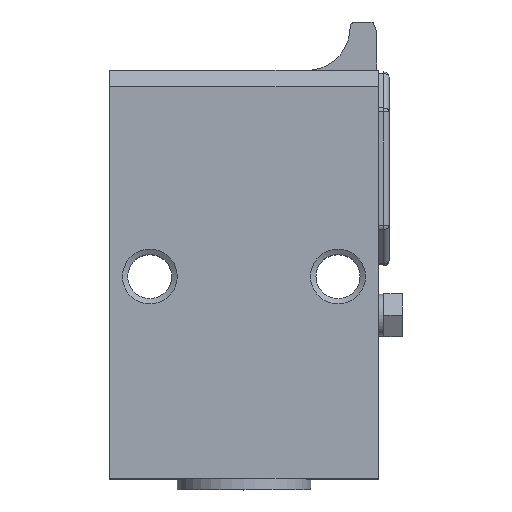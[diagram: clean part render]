
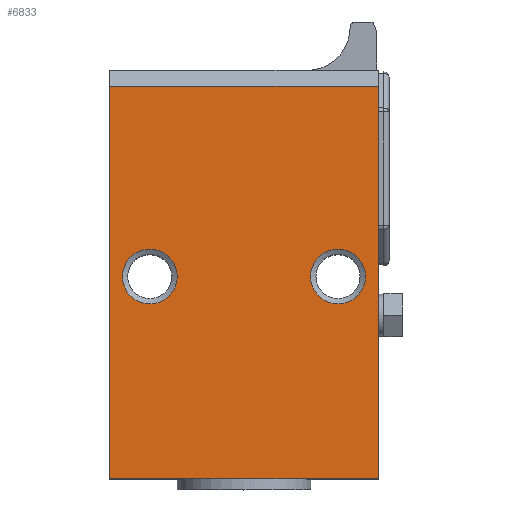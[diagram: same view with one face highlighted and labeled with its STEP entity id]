
A CAD part, top view. The second image highlights one B-rep face of the part: STEP entity #6833.
In plain terms, the highlighted planar face has unit normal (0, 0, 1).
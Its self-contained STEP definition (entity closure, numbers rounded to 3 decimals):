
#152 = FACE_BOUND ( 'NONE', #244, .T. ) ;
#244 = EDGE_LOOP ( 'NONE', ( #11202 ) ) ;
#249 = CARTESIAN_POINT ( 'NONE',  ( 50., 0., 40. ) ) ;
#680 = VERTEX_POINT ( 'NONE', #783 ) ;
#783 = CARTESIAN_POINT ( 'NONE',  ( 50., 0., 40. ) ) ;
#818 = VECTOR ( 'NONE', #16755, 1000. ) ;
#1232 = LINE ( 'NONE', #249, #15431 ) ;
#1255 = DIRECTION ( 'NONE',  ( 1., 0., 0. ) ) ;
#2323 = VERTEX_POINT ( 'NONE', #11986 ) ;
#2477 = CARTESIAN_POINT ( 'NONE',  ( 42.5, 37.65, 40. ) ) ;
#3106 = CARTESIAN_POINT ( 'NONE',  ( 0., 0., 40. ) ) ;
#3115 = EDGE_CURVE ( 'NONE', #4450, #680, #14556, .T. ) ;
#3578 = AXIS2_PLACEMENT_3D ( 'NONE', #2477, #12080, #3863 ) ;
#3701 = DIRECTION ( 'NONE',  ( -1., 0., 0. ) ) ;
#3755 = AXIS2_PLACEMENT_3D ( 'NONE', #4217, #6960, #16541 ) ;
#3863 = DIRECTION ( 'NONE',  ( 1., 0., 0. ) ) ;
#4084 = ORIENTED_EDGE ( 'NONE', *, *, #16848, .F. ) ;
#4217 = CARTESIAN_POINT ( 'NONE',  ( 0., 76., 40. ) ) ;
#4314 = CARTESIAN_POINT ( 'NONE',  ( 0., 0., 40. ) ) ;
#4450 = VERTEX_POINT ( 'NONE', #14920 ) ;
#4934 = LINE ( 'NONE', #3106, #818 ) ;
#5504 = ORIENTED_EDGE ( 'NONE', *, *, #16354, .T. ) ;
#5633 = EDGE_LOOP ( 'NONE', ( #4084 ) ) ;
#5830 = CARTESIAN_POINT ( 'NONE',  ( 12.6, 37.65, 40. ) ) ;
#6833 = ADVANCED_FACE ( 'NONE', ( #152, #7391, #14716 ), #6900, .F. ) ;
#6900 = PLANE ( 'NONE',  #3755 ) ;
#6960 = DIRECTION ( 'NONE',  ( 0., 0., -1. ) ) ;
#7391 = FACE_BOUND ( 'NONE', #5633, .T. ) ;
#8371 = CARTESIAN_POINT ( 'NONE',  ( 0., 73., 40. ) ) ;
#8518 = DIRECTION ( 'NONE',  ( 0., 1., 0. ) ) ;
#8700 = EDGE_LOOP ( 'NONE', ( #5504, #16238, #10120, #10816 ) ) ;
#9465 = DIRECTION ( 'NONE',  ( 0., 0., 1. ) ) ;
#10065 = CIRCLE ( 'NONE', #15506, 5.1 ) ;
#10120 = ORIENTED_EDGE ( 'NONE', *, *, #16365, .T. ) ;
#10816 = ORIENTED_EDGE ( 'NONE', *, *, #3115, .T. ) ;
#10891 = VECTOR ( 'NONE', #16644, 1000. ) ;
#11202 = ORIENTED_EDGE ( 'NONE', *, *, #12108, .F. ) ;
#11982 = LINE ( 'NONE', #13291, #14785 ) ;
#11986 = CARTESIAN_POINT ( 'NONE',  ( 50., 73., 40. ) ) ;
#12080 = DIRECTION ( 'NONE',  ( 0., 0., 1. ) ) ;
#12108 = EDGE_CURVE ( 'NONE', #17561, #17561, #17569, .T. ) ;
#12448 = VERTEX_POINT ( 'NONE', #8371 ) ;
#13291 = CARTESIAN_POINT ( 'NONE',  ( 0., 73., 40. ) ) ;
#14556 = LINE ( 'NONE', #4314, #10891 ) ;
#14716 = FACE_OUTER_BOUND ( 'NONE', #8700, .T. ) ;
#14785 = VECTOR ( 'NONE', #3701, 1000. ) ;
#14920 = CARTESIAN_POINT ( 'NONE',  ( 0., 0., 40. ) ) ;
#15431 = VECTOR ( 'NONE', #8518, 1000. ) ;
#15506 = AXIS2_PLACEMENT_3D ( 'NONE', #17691, #9465, #1255 ) ;
#16238 = ORIENTED_EDGE ( 'NONE', *, *, #17085, .T. ) ;
#16354 = EDGE_CURVE ( 'NONE', #680, #2323, #1232, .T. ) ;
#16365 = EDGE_CURVE ( 'NONE', #12448, #4450, #4934, .T. ) ;
#16541 = DIRECTION ( 'NONE',  ( -1., 0., 0. ) ) ;
#16644 = DIRECTION ( 'NONE',  ( 1., 0., 0. ) ) ;
#16696 = VERTEX_POINT ( 'NONE', #5830 ) ;
#16724 = CARTESIAN_POINT ( 'NONE',  ( 47.6, 37.65, 40. ) ) ;
#16755 = DIRECTION ( 'NONE',  ( 0., -1., 0. ) ) ;
#16848 = EDGE_CURVE ( 'NONE', #16696, #16696, #10065, .T. ) ;
#17085 = EDGE_CURVE ( 'NONE', #2323, #12448, #11982, .T. ) ;
#17561 = VERTEX_POINT ( 'NONE', #16724 ) ;
#17569 = CIRCLE ( 'NONE', #3578, 5.1 ) ;
#17691 = CARTESIAN_POINT ( 'NONE',  ( 7.5, 37.65, 40. ) ) ;
